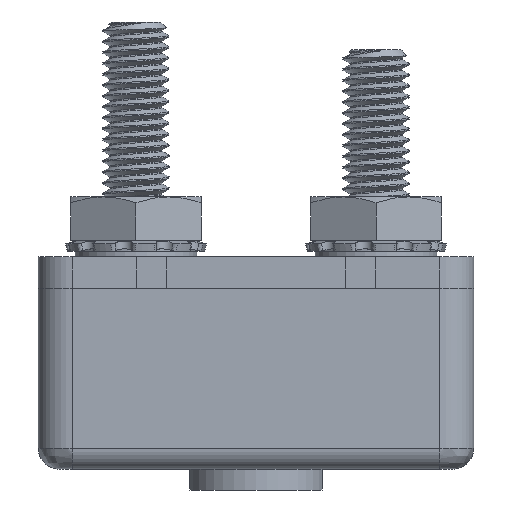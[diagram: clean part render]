
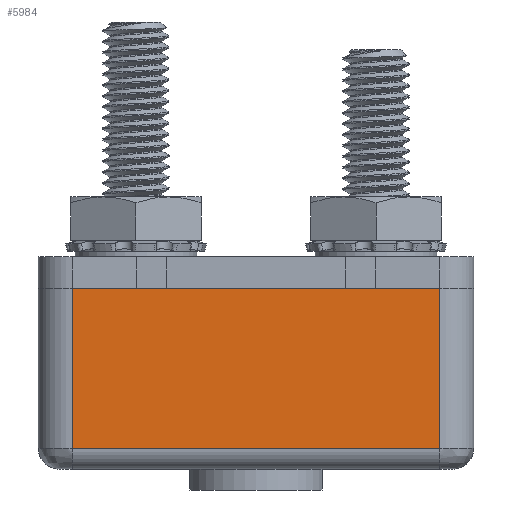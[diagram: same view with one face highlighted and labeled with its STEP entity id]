
A CAD part, front view. The second image highlights one B-rep face of the part: STEP entity #5984.
In plain terms, the highlighted planar face has unit normal (0, -1, 0).
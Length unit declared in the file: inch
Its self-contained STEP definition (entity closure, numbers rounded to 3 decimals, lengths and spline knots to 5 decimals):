
#623=PLANE('',#6335);
#826=FACE_OUTER_BOUND('',#1168,.T.);
#1168=EDGE_LOOP('',(#4627,#4628,#4629,#4630));
#1599=LINE('',#9487,#2017);
#1605=LINE('',#9542,#2023);
#1608=LINE('',#9553,#2026);
#1609=LINE('',#9555,#2027);
#2017=VECTOR('',#7059,0.3937);
#2023=VECTOR('',#7097,0.3937);
#2026=VECTOR('',#7110,0.3937);
#2027=VECTOR('',#7113,0.3937);
#2564=VERTEX_POINT('',#9481);
#2565=VERTEX_POINT('',#9485);
#2571=VERTEX_POINT('',#9541);
#2574=VERTEX_POINT('',#9551);
#3290=EDGE_CURVE('',#2565,#2564,#1599,.T.);
#3305=EDGE_CURVE('',#2564,#2571,#1605,.T.);
#3311=EDGE_CURVE('',#2574,#2565,#1608,.T.);
#3312=EDGE_CURVE('',#2571,#2574,#1609,.T.);
#4627=ORIENTED_EDGE('',*,*,#3290,.F.);
#4628=ORIENTED_EDGE('',*,*,#3311,.F.);
#4629=ORIENTED_EDGE('',*,*,#3312,.F.);
#4630=ORIENTED_EDGE('',*,*,#3305,.F.);
#5984=ADVANCED_FACE('',(#826),#623,.T.);
#6335=AXIS2_PLACEMENT_3D('',#9554,#7111,#7112);
#7059=DIRECTION('',(-1.,0.,0.));
#7097=DIRECTION('',(0.,0.,1.));
#7110=DIRECTION('',(0.,0.,-1.));
#7111=DIRECTION('center_axis',(0.,-1.,0.));
#7112=DIRECTION('ref_axis',(1.,0.,0.));
#7113=DIRECTION('',(1.,0.,0.));
#9481=CARTESIAN_POINT('',(0.09843,0.,0.06));
#9485=CARTESIAN_POINT('',(1.15354,0.,0.06));
#9487=CARTESIAN_POINT('',(0.31299,0.,0.06));
#9541=CARTESIAN_POINT('',(0.09843,0.,0.52));
#9542=CARTESIAN_POINT('',(0.09843,0.,0.));
#9551=CARTESIAN_POINT('',(1.15354,0.,0.52));
#9553=CARTESIAN_POINT('',(1.15354,0.,0.));
#9554=CARTESIAN_POINT('Origin',(0.,0.,0.));
#9555=CARTESIAN_POINT('',(0.,0.,0.52));
